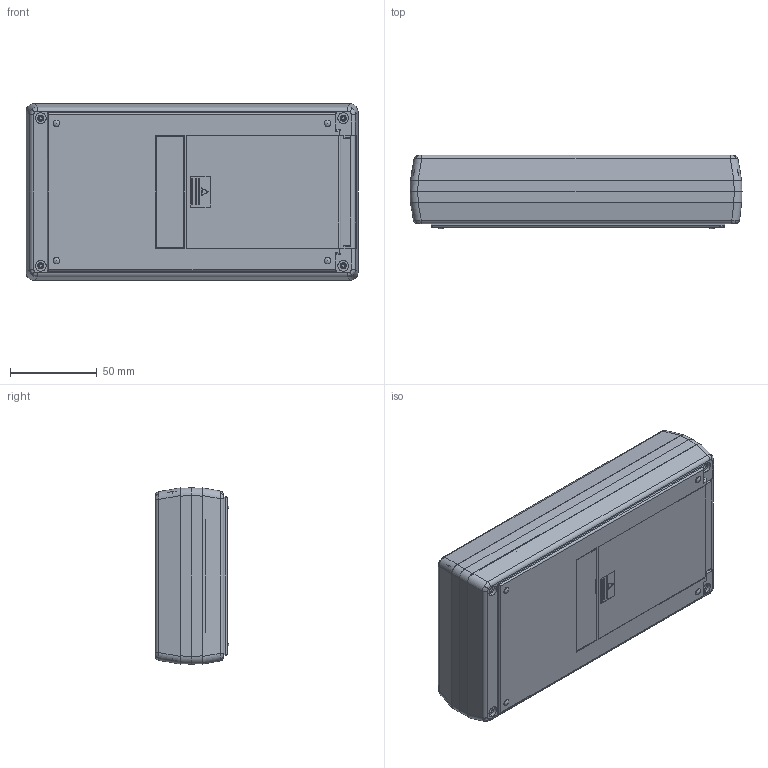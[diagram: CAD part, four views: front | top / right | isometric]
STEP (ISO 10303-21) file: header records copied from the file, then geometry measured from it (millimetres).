
FILE_DESCRIPTION (( 'STEP AP214' ), '1' );
FILE_NAME ('100-41-6A-E-F.STEP', '2019-11-30T00:24:32', ( 'Rudy' ), ( '' ), 'SwSTEP 2.0', 'SolidWorks 2014', '' );
FILE_SCHEMA (( 'AUTOMOTIVE_DESIGN' ));
Length unit declared in the file: inch
Products named in the file (5): 100-06 EXPANDER; 6AAdoor; 100-04-flush Top; 100-01 BOT-6AA; 100-41-6A-E-F
Assembly tree (4 placements, depth 2):
  100-41-6A-E-F
    100-01 BOT-6AA
    100-04-flush Top
    6AAdoor
    100-06 EXPANDER
Bounding box: 191 x 42.4 x 101.4 mm (x, y, z)
Volume: 164335 mm3; surface area: 153205.8 mm2
Topology: 4 solids, 4 shells, 1161 faces, 3157 edges, 2001 vertices
Faces by surface type: plane 771, cylinder 288, bspline 44, cone 42, torus 12, sphere 4
Entity records: 37632 total; most frequent: CARTESIAN_POINT 8931, ORIENTED_EDGE 6236, DIRECTION 5490, EDGE_CURVE 3118, LINE 2362, VECTOR 2362, VERTEX_POINT 1993, AXIS2_PLACEMENT_3D 1564
